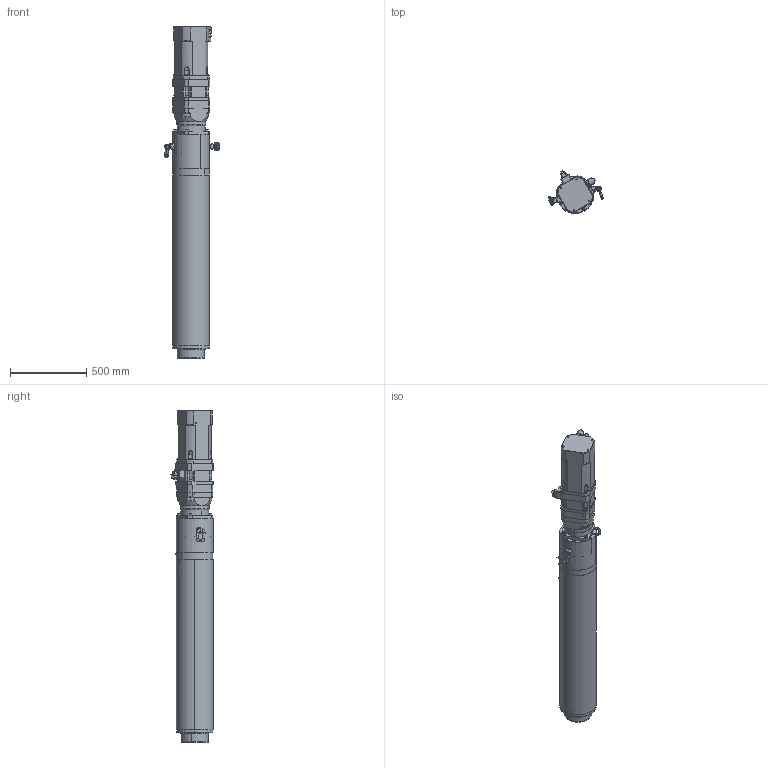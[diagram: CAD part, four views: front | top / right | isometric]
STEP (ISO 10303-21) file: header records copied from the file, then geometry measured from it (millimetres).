
FILE_DESCRIPTION (( 'STEP AP214' ), '1' );
FILE_NAME ('RLWIK200D-075-010SG0.STEP', '2023-04-06T06:24:50', ( '' ), ( '' ), 'SwSTEP 2.0', 'SolidWorks 2021', '' );
FILE_SCHEMA (( 'AUTOMOTIVE_DESIGN' ));
Length unit declared in the file: millimetre
Products named in the file (1): RLWIK200D-075-010SG0
Bounding box: 356.89 x 280.49 x 2171.5 mm (x, y, z)
Surface area: 4332529 mm2 (no closed solid volume)
Topology: 0 solids, 43 shells, 1657 faces, 3961 edges, 2412 vertices
Faces by surface type: cylinder 676, plane 613, cone 260, torus 102, bspline 6
Entity records: 67943 total; most frequent: CARTESIAN_POINT 10705, DIRECTION 8588, ORIENTED_EDGE 7602, EDGE_CURVE 3807, AXIS2_PLACEMENT_3D 3361, VERTEX_POINT 2412, EDGE_LOOP 1943, LINE 1866
